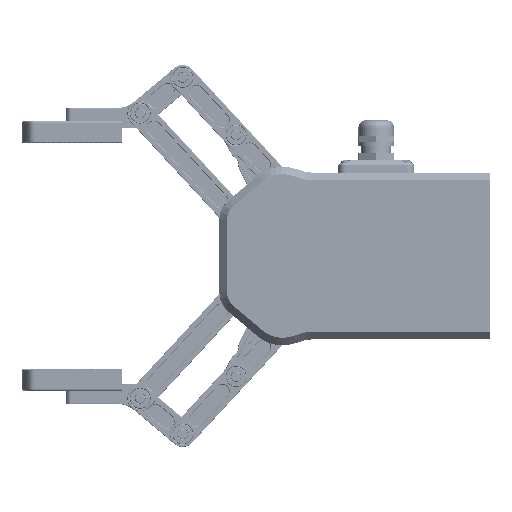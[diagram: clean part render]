
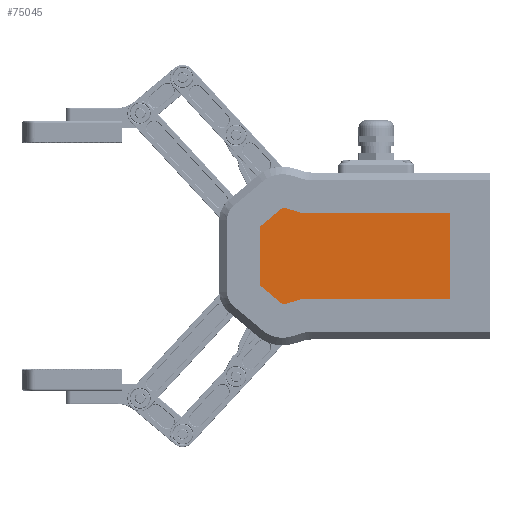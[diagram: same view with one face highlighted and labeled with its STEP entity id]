
A CAD part, left-side view. The second image highlights one B-rep face of the part: STEP entity #75045.
In plain terms, the highlighted planar face has unit normal (-1, 0, 0).
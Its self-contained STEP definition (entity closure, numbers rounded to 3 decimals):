
#1268 = ORIENTED_EDGE ( 'NONE', *, *, #146080, .F. ) ;
#5325 = CARTESIAN_POINT ( 'NONE',  ( -22.5, 16., 17. ) ) ;
#8211 = VECTOR ( 'NONE', #14038, 1000. ) ;
#14038 = DIRECTION ( 'NONE',  ( 0., 1., 0. ) ) ;
#14416 = EDGE_CURVE ( 'NONE', #178086, #164767, #86483, .T. ) ;
#20595 = CARTESIAN_POINT ( 'NONE',  ( -22.5, 16., -17. ) ) ;
#23217 = LINE ( 'NONE', #199145, #106731 ) ;
#39305 = CARTESIAN_POINT ( 'NONE',  ( -22.5, 74.313, -17. ) ) ;
#39964 = ORIENTED_EDGE ( 'NONE', *, *, #84751, .F. ) ;
#40763 = DIRECTION ( 'NONE',  ( 0., 0.766, 0.643 ) ) ;
#47712 = FACE_OUTER_BOUND ( 'NONE', #161220, .T. ) ;
#47876 = CARTESIAN_POINT ( 'NONE',  ( -22.5, 91., 11.539 ) ) ;
#48148 = EDGE_CURVE ( 'NONE', #106144, #195659, #82690, .T. ) ;
#61851 = CARTESIAN_POINT ( 'NONE',  ( -22.5, 91., -11.539 ) ) ;
#62205 = CARTESIAN_POINT ( 'NONE',  ( -22.5, 91., -11.539 ) ) ;
#64674 = LINE ( 'NONE', #105705, #176942 ) ;
#65385 = AXIS2_PLACEMENT_3D ( 'NONE', #109315, #140838, #142231 ) ;
#73571 = EDGE_CURVE ( 'NONE', #93060, #178086, #170153, .T. ) ;
#75022 = CARTESIAN_POINT ( 'NONE',  ( -22.5, 91., -11.539 ) ) ;
#75045 = ADVANCED_FACE ( 'NONE', ( #47712 ), #75783, .F. ) ;
#75783 = PLANE ( 'NONE',  #65385 ) ;
#77917 = LINE ( 'NONE', #62205, #143056 ) ;
#78412 = CARTESIAN_POINT ( 'NONE',  ( -22.5, 74.313, 17. ) ) ;
#80367 = DIRECTION ( 'NONE',  ( 0., 0., 1. ) ) ;
#82690 = LINE ( 'NONE', #75022, #181931 ) ;
#84751 = EDGE_CURVE ( 'NONE', #140037, #93060, #131314, .T. ) ;
#84896 = CARTESIAN_POINT ( 'NONE',  ( -22.5, 81.843, -19.223 ) ) ;
#85053 = VECTOR ( 'NONE', #205121, 1000. ) ;
#85504 = CARTESIAN_POINT ( 'NONE',  ( -22.5, 81.843, 19.223 ) ) ;
#86483 = LINE ( 'NONE', #163622, #8211 ) ;
#93060 = VERTEX_POINT ( 'NONE', #5325 ) ;
#100944 = EDGE_CURVE ( 'NONE', #164767, #106144, #64674, .T. ) ;
#105705 = CARTESIAN_POINT ( 'NONE',  ( -22.5, 81.843, -19.223 ) ) ;
#105993 = LINE ( 'NONE', #187619, #85053 ) ;
#106144 = VERTEX_POINT ( 'NONE', #84896 ) ;
#106731 = VECTOR ( 'NONE', #198419, 1000. ) ;
#109315 = CARTESIAN_POINT ( 'NONE',  ( -22.5, 0., 0. ) ) ;
#113218 = ORIENTED_EDGE ( 'NONE', *, *, #14416, .F. ) ;
#122901 = VERTEX_POINT ( 'NONE', #47876 ) ;
#125758 = VECTOR ( 'NONE', #203768, 1000. ) ;
#131314 = LINE ( 'NONE', #195676, #209690 ) ;
#132483 = EDGE_CURVE ( 'NONE', #195659, #122901, #77917, .T. ) ;
#134986 = EDGE_CURVE ( 'NONE', #160080, #140037, #105993, .T. ) ;
#140037 = VERTEX_POINT ( 'NONE', #78412 ) ;
#140838 = DIRECTION ( 'NONE',  ( 1., 0., 0. ) ) ;
#142231 = DIRECTION ( 'NONE',  ( 0., 0., -1. ) ) ;
#142575 = ORIENTED_EDGE ( 'NONE', *, *, #100944, .F. ) ;
#143056 = VECTOR ( 'NONE', #80367, 1000. ) ;
#146080 = EDGE_CURVE ( 'NONE', #122901, #160080, #23217, .T. ) ;
#157540 = DIRECTION ( 'NONE',  ( 0., 0.959, -0.283 ) ) ;
#159189 = ORIENTED_EDGE ( 'NONE', *, *, #73571, .F. ) ;
#160080 = VERTEX_POINT ( 'NONE', #85504 ) ;
#161220 = EDGE_LOOP ( 'NONE', ( #113218, #159189, #39964, #176095, #1268, #173981, #171482, #142575 ) ) ;
#162096 = DIRECTION ( 'NONE',  ( 0., -1., 0. ) ) ;
#163622 = CARTESIAN_POINT ( 'NONE',  ( -22.5, 74.313, -17. ) ) ;
#164767 = VERTEX_POINT ( 'NONE', #39305 ) ;
#168981 = CARTESIAN_POINT ( 'NONE',  ( -22.5, 16., -17. ) ) ;
#170153 = LINE ( 'NONE', #20595, #125758 ) ;
#171482 = ORIENTED_EDGE ( 'NONE', *, *, #48148, .F. ) ;
#173981 = ORIENTED_EDGE ( 'NONE', *, *, #132483, .F. ) ;
#176095 = ORIENTED_EDGE ( 'NONE', *, *, #134986, .F. ) ;
#176942 = VECTOR ( 'NONE', #157540, 1000. ) ;
#178086 = VERTEX_POINT ( 'NONE', #168981 ) ;
#181931 = VECTOR ( 'NONE', #40763, 1000. ) ;
#187619 = CARTESIAN_POINT ( 'NONE',  ( -22.5, 81.843, 19.223 ) ) ;
#195659 = VERTEX_POINT ( 'NONE', #61851 ) ;
#195676 = CARTESIAN_POINT ( 'NONE',  ( -22.5, 74.313, 17. ) ) ;
#198419 = DIRECTION ( 'NONE',  ( 0., -0.766, 0.643 ) ) ;
#199145 = CARTESIAN_POINT ( 'NONE',  ( -22.5, 91., 11.539 ) ) ;
#203768 = DIRECTION ( 'NONE',  ( 0., 0., -1. ) ) ;
#205121 = DIRECTION ( 'NONE',  ( 0., -0.959, -0.283 ) ) ;
#209690 = VECTOR ( 'NONE', #162096, 1000. ) ;
